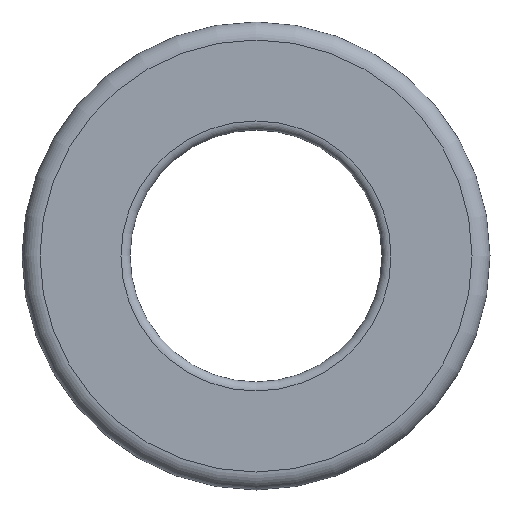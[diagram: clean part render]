
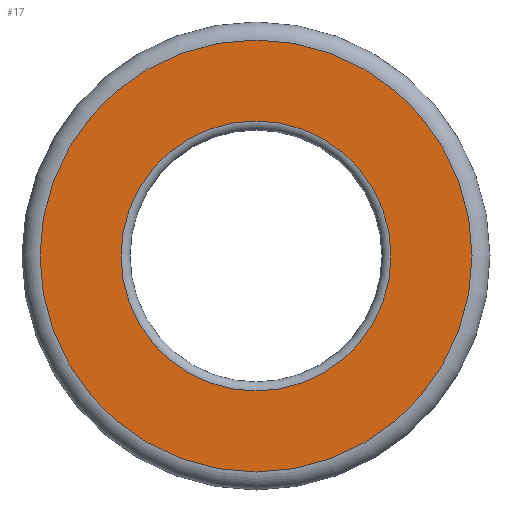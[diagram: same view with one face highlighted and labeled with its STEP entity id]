
A CAD part, left-side view. The second image highlights one B-rep face of the part: STEP entity #17.
In plain terms, the highlighted planar face has unit normal (-1, 0, 0).
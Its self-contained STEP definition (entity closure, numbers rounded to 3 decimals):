
#17 = ADVANCED_FACE('',(#18,#54),#31,.F.);
#18 = FACE_BOUND('',#19,.F.);
#19 = EDGE_LOOP('',(#20));
#20 = ORIENTED_EDGE('',*,*,#21,.F.);
#21 = EDGE_CURVE('',#22,#22,#24,.T.);
#22 = VERTEX_POINT('',#23);
#23 = CARTESIAN_POINT('',(57.8,0.,107.5));
#24 = SURFACE_CURVE('',#25,(#30,#42),.PCURVE_S1.);
#25 = CIRCLE('',#26,7.5);
#26 = AXIS2_PLACEMENT_3D('',#27,#28,#29);
#27 = CARTESIAN_POINT('',(57.8,0.,115.));
#28 = DIRECTION('',(1.,-0.,0.));
#29 = DIRECTION('',(0.,0.,-1.));
#30 = PCURVE('',#31,#36);
#31 = PLANE('',#32);
#32 = AXIS2_PLACEMENT_3D('',#33,#34,#35);
#33 = CARTESIAN_POINT('',(57.8,0.,115.));
#34 = DIRECTION('',(1.,0.,0.));
#35 = DIRECTION('',(0.,0.,-1.));
#36 = DEFINITIONAL_REPRESENTATION('',(#37),#41);
#37 = CIRCLE('',#38,7.5);
#38 = AXIS2_PLACEMENT_2D('',#39,#40);
#39 = CARTESIAN_POINT('',(0.,0.));
#40 = DIRECTION('',(1.,0.));
#41 = ( GEOMETRIC_REPRESENTATION_CONTEXT(2) 
PARAMETRIC_REPRESENTATION_CONTEXT() REPRESENTATION_CONTEXT('2D SPACE',''
  ) );
#42 = PCURVE('',#43,#48);
#43 = TOROIDAL_SURFACE('',#44,7.5,0.5);
#44 = AXIS2_PLACEMENT_3D('',#45,#46,#47);
#45 = CARTESIAN_POINT('',(58.3,0.,115.));
#46 = DIRECTION('',(-1.,0.,0.));
#47 = DIRECTION('',(0.,0.,-1.));
#48 = DEFINITIONAL_REPRESENTATION('',(#49),#53);
#49 = LINE('',#50,#51);
#50 = CARTESIAN_POINT('',(-0.,1.571));
#51 = VECTOR('',#52,1.);
#52 = DIRECTION('',(-1.,0.));
#53 = ( GEOMETRIC_REPRESENTATION_CONTEXT(2) 
PARAMETRIC_REPRESENTATION_CONTEXT() REPRESENTATION_CONTEXT('2D SPACE',''
  ) );
#54 = FACE_BOUND('',#55,.F.);
#55 = EDGE_LOOP('',(#56));
#56 = ORIENTED_EDGE('',*,*,#57,.T.);
#57 = EDGE_CURVE('',#58,#58,#60,.T.);
#58 = VERTEX_POINT('',#59);
#59 = CARTESIAN_POINT('',(57.8,0.,103.));
#60 = SURFACE_CURVE('',#61,(#66,#73),.PCURVE_S1.);
#61 = CIRCLE('',#62,12.);
#62 = AXIS2_PLACEMENT_3D('',#63,#64,#65);
#63 = CARTESIAN_POINT('',(57.8,0.,115.));
#64 = DIRECTION('',(1.,-0.,0.));
#65 = DIRECTION('',(0.,0.,-1.));
#66 = PCURVE('',#31,#67);
#67 = DEFINITIONAL_REPRESENTATION('',(#68),#72);
#68 = CIRCLE('',#69,12.);
#69 = AXIS2_PLACEMENT_2D('',#70,#71);
#70 = CARTESIAN_POINT('',(0.,0.));
#71 = DIRECTION('',(1.,0.));
#72 = ( GEOMETRIC_REPRESENTATION_CONTEXT(2) 
PARAMETRIC_REPRESENTATION_CONTEXT() REPRESENTATION_CONTEXT('2D SPACE',''
  ) );
#73 = PCURVE('',#74,#79);
#74 = TOROIDAL_SURFACE('',#75,12.,1.);
#75 = AXIS2_PLACEMENT_3D('',#76,#77,#78);
#76 = CARTESIAN_POINT('',(58.8,0.,115.));
#77 = DIRECTION('',(-1.,0.,0.));
#78 = DIRECTION('',(0.,0.,-1.));
#79 = DEFINITIONAL_REPRESENTATION('',(#80),#84);
#80 = LINE('',#81,#82);
#81 = CARTESIAN_POINT('',(-0.,1.571));
#82 = VECTOR('',#83,1.);
#83 = DIRECTION('',(-1.,0.));
#84 = ( GEOMETRIC_REPRESENTATION_CONTEXT(2) 
PARAMETRIC_REPRESENTATION_CONTEXT() REPRESENTATION_CONTEXT('2D SPACE',''
  ) );
